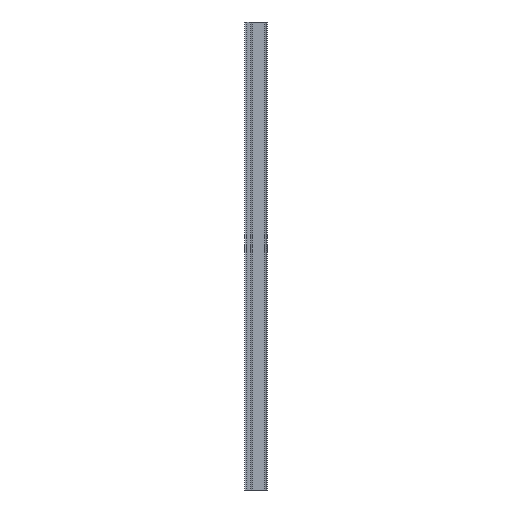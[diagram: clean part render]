
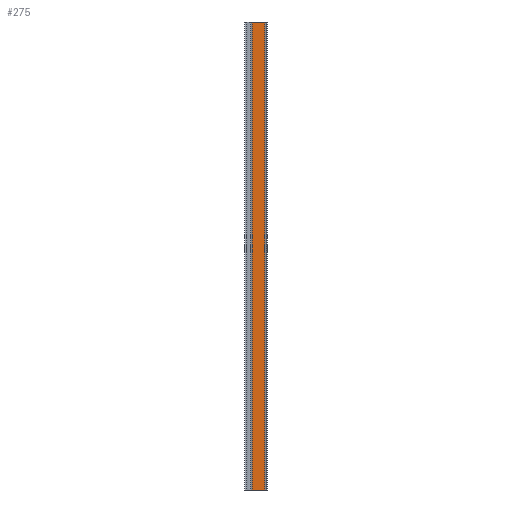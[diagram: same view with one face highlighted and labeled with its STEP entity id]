
A CAD part, front view. The second image highlights one B-rep face of the part: STEP entity #275.
In plain terms, the highlighted planar face has unit normal (0, -1, 0).
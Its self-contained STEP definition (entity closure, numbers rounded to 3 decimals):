
#3 = CARTESIAN_POINT ( 'NONE',  ( -9., 0., 250. ) ) ;
#118 = DIRECTION ( 'NONE',  ( 0., 0., -1. ) ) ;
#127 = CARTESIAN_POINT ( 'NONE',  ( 6., 0., -250. ) ) ;
#183 = DIRECTION ( 'NONE',  ( 0., 0., 1. ) ) ;
#226 = VECTOR ( 'NONE', #118, 1000. ) ;
#245 = CARTESIAN_POINT ( 'NONE',  ( -7., 0., -250. ) ) ;
#265 = VECTOR ( 'NONE', #866, 1000. ) ;
#275 = ADVANCED_FACE ( 'NONE', ( #370 ), #643, .F. ) ;
#307 = LINE ( 'NONE', #431, #226 ) ;
#308 = EDGE_CURVE ( 'NONE', #461, #379, #307, .T. ) ;
#310 = DIRECTION ( 'NONE',  ( 0., 1., 0. ) ) ;
#328 = LINE ( 'NONE', #802, #265 ) ;
#359 = EDGE_LOOP ( 'NONE', ( #439, #607, #817, #681 ) ) ;
#370 = FACE_OUTER_BOUND ( 'NONE', #359, .T. ) ;
#379 = VERTEX_POINT ( 'NONE', #245 ) ;
#389 = CARTESIAN_POINT ( 'NONE',  ( -7., 0., 250. ) ) ;
#397 = DIRECTION ( 'NONE',  ( 1., 0., 0. ) ) ;
#403 = LINE ( 'NONE', #3, #746 ) ;
#426 = EDGE_CURVE ( 'NONE', #471, #454, #328, .T. ) ;
#431 = CARTESIAN_POINT ( 'NONE',  ( -7., 0., 250. ) ) ;
#439 = ORIENTED_EDGE ( 'NONE', *, *, #481, .F. ) ;
#444 = CARTESIAN_POINT ( 'NONE',  ( -9., 0., 250. ) ) ;
#454 = VERTEX_POINT ( 'NONE', #127 ) ;
#461 = VERTEX_POINT ( 'NONE', #389 ) ;
#471 = VERTEX_POINT ( 'NONE', #600 ) ;
#481 = EDGE_CURVE ( 'NONE', #461, #471, #403, .T. ) ;
#550 = LINE ( 'NONE', #613, #705 ) ;
#559 = EDGE_CURVE ( 'NONE', #379, #454, #550, .T. ) ;
#600 = CARTESIAN_POINT ( 'NONE',  ( 6., 0., 250. ) ) ;
#607 = ORIENTED_EDGE ( 'NONE', *, *, #308, .T. ) ;
#613 = CARTESIAN_POINT ( 'NONE',  ( -9., 0., -250. ) ) ;
#643 = PLANE ( 'NONE',  #717 ) ;
#681 = ORIENTED_EDGE ( 'NONE', *, *, #426, .F. ) ;
#705 = VECTOR ( 'NONE', #764, 1000. ) ;
#717 = AXIS2_PLACEMENT_3D ( 'NONE', #444, #310, #183 ) ;
#746 = VECTOR ( 'NONE', #397, 1000. ) ;
#764 = DIRECTION ( 'NONE',  ( 1., 0., 0. ) ) ;
#802 = CARTESIAN_POINT ( 'NONE',  ( 6., 0., 250. ) ) ;
#817 = ORIENTED_EDGE ( 'NONE', *, *, #559, .T. ) ;
#866 = DIRECTION ( 'NONE',  ( 0., 0., -1. ) ) ;
